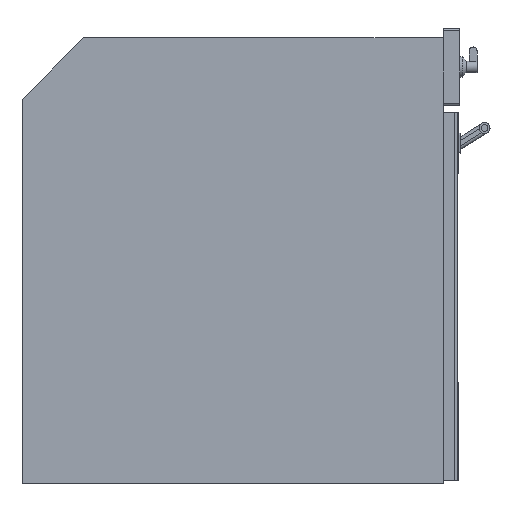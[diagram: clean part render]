
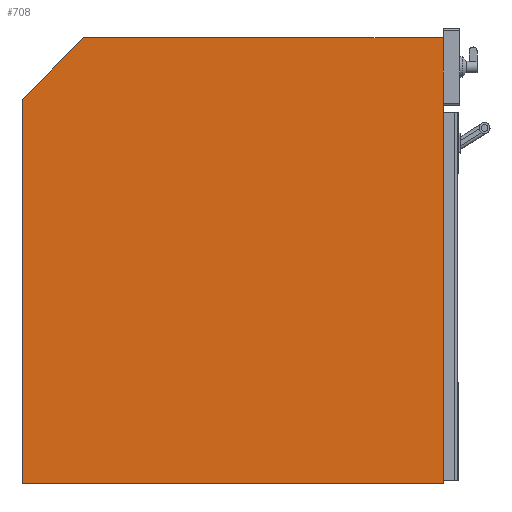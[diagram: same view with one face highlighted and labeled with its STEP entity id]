
A CAD part, front view. The second image highlights one B-rep face of the part: STEP entity #708.
In plain terms, the highlighted planar face has unit normal (0, -1, 0).
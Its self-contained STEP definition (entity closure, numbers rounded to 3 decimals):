
#708=ADVANCED_FACE('',(#1021),#855,.T.);
#855=PLANE('',#3652);
#1021=FACE_OUTER_BOUND('',#1244,.T.);
#1244=EDGE_LOOP('',(#2004,#2005,#2006,#2007,#2008));
#2004=ORIENTED_EDGE('',*,*,#2769,.T.);
#2005=ORIENTED_EDGE('',*,*,#2773,.T.);
#2006=ORIENTED_EDGE('',*,*,#2776,.T.);
#2007=ORIENTED_EDGE('',*,*,#2779,.T.);
#2008=ORIENTED_EDGE('',*,*,#2782,.T.);
#2372=VERTEX_POINT('',#5701);
#2373=VERTEX_POINT('',#5702);
#2376=VERTEX_POINT('',#5710);
#2378=VERTEX_POINT('',#5716);
#2380=VERTEX_POINT('',#5722);
#2769=EDGE_CURVE('',#2372,#2373,#3063,.T.);
#2773=EDGE_CURVE('',#2373,#2376,#3067,.T.);
#2776=EDGE_CURVE('',#2376,#2378,#3070,.T.);
#2779=EDGE_CURVE('',#2378,#2380,#3073,.T.);
#2782=EDGE_CURVE('',#2380,#2372,#3076,.T.);
#3063=LINE('',#5700,#3346);
#3067=LINE('',#5709,#3350);
#3070=LINE('',#5715,#3353);
#3073=LINE('',#5721,#3356);
#3076=LINE('',#5727,#3359);
#3346=VECTOR('',#4429,1.);
#3350=VECTOR('',#4435,1.);
#3353=VECTOR('',#4440,1.);
#3356=VECTOR('',#4445,1.);
#3359=VECTOR('',#4450,1.);
#3652=AXIS2_PLACEMENT_3D('',#5731,#4456,#4457);
#4429=DIRECTION('',(-1.,0.,0.));
#4435=DIRECTION('',(-0.707,0.,-0.707));
#4440=DIRECTION('',(0.,0.,-1.));
#4445=DIRECTION('',(1.,0.,0.));
#4450=DIRECTION('',(0.,0.,1.));
#4456=DIRECTION('',(0.,-1.,0.));
#4457=DIRECTION('',(0.,0.,-1.));
#5700=CARTESIAN_POINT('',(548.,0.,580.));
#5701=CARTESIAN_POINT('',(548.,0.,580.));
#5702=CARTESIAN_POINT('',(80.,0.,580.));
#5709=CARTESIAN_POINT('',(80.,0.,580.));
#5710=CARTESIAN_POINT('',(0.,0.,500.));
#5715=CARTESIAN_POINT('',(0.,0.,500.));
#5716=CARTESIAN_POINT('',(0.,0.,0.));
#5721=CARTESIAN_POINT('',(0.,0.,0.));
#5722=CARTESIAN_POINT('',(548.,0.,0.));
#5727=CARTESIAN_POINT('',(548.,0.,0.));
#5731=CARTESIAN_POINT('',(0.,0.,580.));
